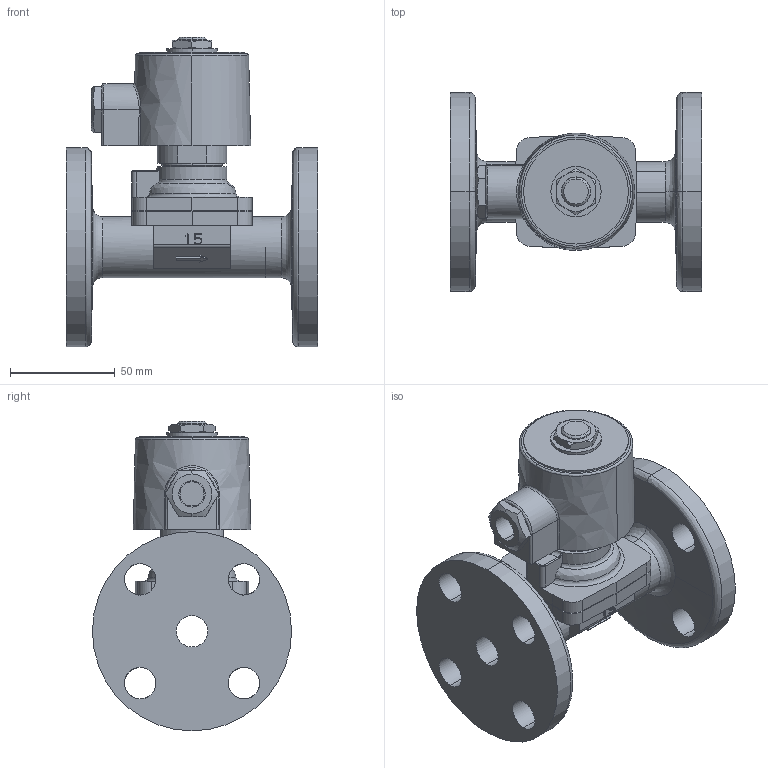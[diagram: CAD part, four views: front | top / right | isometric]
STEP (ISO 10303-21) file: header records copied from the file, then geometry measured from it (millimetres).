
FILE_DESCRIPTION( (''), '2;1');
FILE_NAME ('PC1056.13084.DP-200F(15A)_127.stp','2024-07-19T11:01:25',(''),(''),'spGate 19.8.4 (****-****-****-****)','','');
FILE_SCHEMA (('AUTOMOTIVE_DESIGN'));
Length unit declared in the file: millimetre
Products named in the file (5): Assembly; DP200パイプ1Ｂ以下; ACコイル10A; コイル六角ナット座金; DP-200F(15A)本体
Assembly tree (4 placements, depth 2):
  Assembly
    DP200パイプ1Ｂ以下
    ACコイル10A
    コイル六角ナット座金
    DP-200F(15A)本体
Bounding box: 120 x 95 x 147.7 mm (x, y, z)
Volume: 374209 mm3; surface area: 90588.2 mm2
Topology: 4 solids, 4 shells, 342 faces, 833 edges, 523 vertices
Faces by surface type: plane 134, cylinder 124, bspline 84
Entity records: 19848 total; most frequent: CARTESIAN_POINT 5625, ORIENTED_EDGE 1666, DIRECTION 1384, COLOUR_RGB 1179, PRESENTATION_STYLE_ASSIGNMENT 1179, STYLED_ITEM 1179, EDGE_CURVE 833, DRAUGHTING_PRE_DEFINED_CURVE_FONT 833
